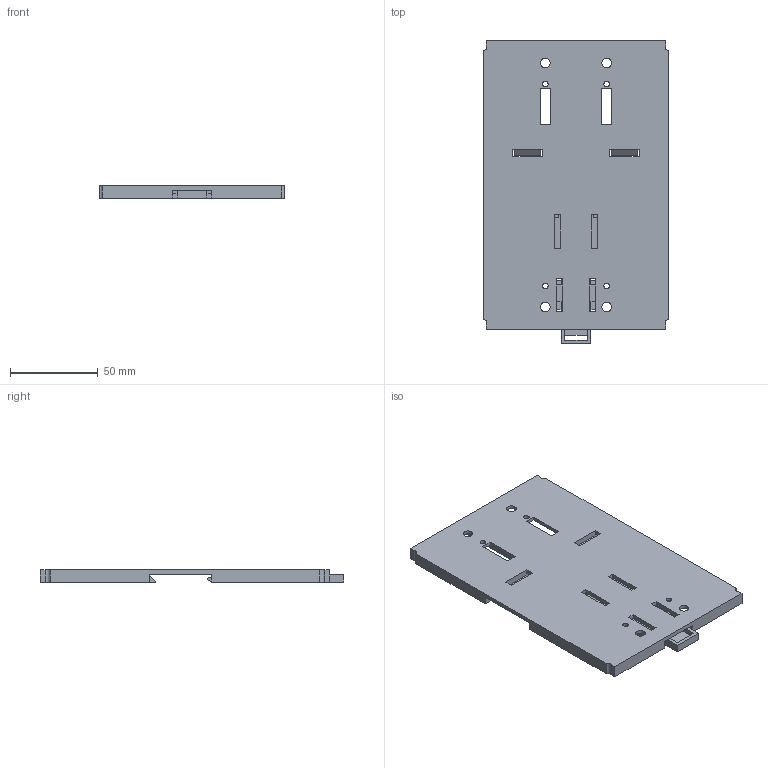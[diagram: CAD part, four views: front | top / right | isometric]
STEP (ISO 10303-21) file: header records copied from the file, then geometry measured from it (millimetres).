
FILE_DESCRIPTION (( 'STEP AP203' ), '1' );
FILE_NAME ('5-250-3-絳寢.STEP', '2024-09-20T08:15:14', ( 'A' ), ( '' ), 'SwSTEP 2.0', 'SolidWorks 2018', '' );
FILE_SCHEMA (( 'CONFIG_CONTROL_DESIGN' ));
Length unit declared in the file: millimetre
Products named in the file (4): 8LD.064.1013; 5-250-3-絳寢1足1“_; 8LD.282.1030; 8LD.140.1005
Assembly tree (3 placements, depth 2):
  5-250-3-絳寢1足1“_
    8LD.064.1013
    8LD.282.1030
    8LD.140.1005
Bounding box: 105 x 172.97 x 7 mm (x, y, z)
Volume: 49034.7 mm3; surface area: 53347.4 mm2
Topology: 3 solids, 3 shells, 262 faces, 728 edges, 486 vertices
Faces by surface type: plane 231, cylinder 30, bspline 1
Entity records: 14625 total; most frequent: CARTESIAN_POINT 7354, ORIENTED_EDGE 1456, DIRECTION 1325, EDGE_CURVE 728, VECTOR 663, LINE 663, VERTEX_POINT 486, AXIS2_PLACEMENT_3D 331
